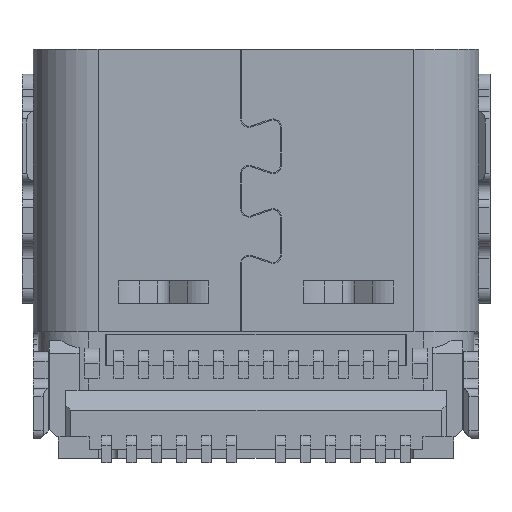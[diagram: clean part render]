
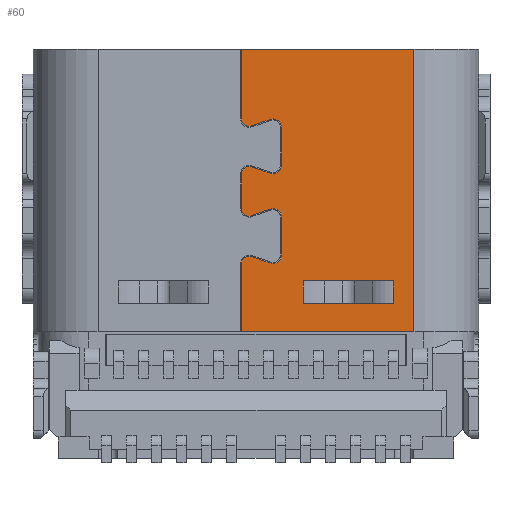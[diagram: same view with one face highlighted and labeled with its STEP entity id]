
A CAD part, front view. The second image highlights one B-rep face of the part: STEP entity #60.
In plain terms, the highlighted planar face has unit normal (0, -1, 0).
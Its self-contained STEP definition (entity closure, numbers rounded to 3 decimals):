
#60=ADVANCED_FACE('',(#732,#733),#734,.T.);
#732=FACE_OUTER_BOUND('',#2061,.T.);
#733=FACE_BOUND('',#2062,.T.);
#734=PLANE('',#2063);
#2061=EDGE_LOOP('',(#3615,#3616,#3617,#3618,#3619,#3620,#3621,#3622,#3623,#3624,#3625,#3626,#3627,#3628,#3629,#3630,#3631,#3632,#3633,#3634));
#2062=EDGE_LOOP('',(#3635,#3636,#3637,#3638));
#2063=AXIS2_PLACEMENT_3D('',#3639,#3640,#3641);
#3615=ORIENTED_EDGE('',*,*,#9364,.T.);
#3616=ORIENTED_EDGE('',*,*,#9365,.T.);
#3617=ORIENTED_EDGE('',*,*,#9366,.T.);
#3618=ORIENTED_EDGE('',*,*,#9367,.T.);
#3619=ORIENTED_EDGE('',*,*,#9368,.T.);
#3620=ORIENTED_EDGE('',*,*,#9369,.T.);
#3621=ORIENTED_EDGE('',*,*,#9370,.T.);
#3622=ORIENTED_EDGE('',*,*,#9371,.T.);
#3623=ORIENTED_EDGE('',*,*,#9372,.T.);
#3624=ORIENTED_EDGE('',*,*,#9373,.F.);
#3625=ORIENTED_EDGE('',*,*,#9374,.F.);
#3626=ORIENTED_EDGE('',*,*,#9360,.F.);
#3627=ORIENTED_EDGE('',*,*,#9358,.F.);
#3628=ORIENTED_EDGE('',*,*,#9375,.T.);
#3629=ORIENTED_EDGE('',*,*,#9376,.T.);
#3630=ORIENTED_EDGE('',*,*,#9377,.T.);
#3631=ORIENTED_EDGE('',*,*,#9378,.T.);
#3632=ORIENTED_EDGE('',*,*,#9379,.T.);
#3633=ORIENTED_EDGE('',*,*,#9380,.T.);
#3634=ORIENTED_EDGE('',*,*,#9381,.T.);
#3635=ORIENTED_EDGE('',*,*,#9382,.F.);
#3636=ORIENTED_EDGE('',*,*,#9383,.T.);
#3637=ORIENTED_EDGE('',*,*,#9384,.F.);
#3638=ORIENTED_EDGE('',*,*,#9385,.T.);
#3639=CARTESIAN_POINT('',(7.647,3.462,3.12));
#3640=DIRECTION('',(0.0,-1.0,0.0));
#3641=DIRECTION('',(0.0,0.0,-1.0));
#9358=EDGE_CURVE('',#11312,#11314,#11315,.T.);
#9360=EDGE_CURVE('',#11314,#11317,#11318,.T.);
#9364=EDGE_CURVE('',#11324,#11325,#11326,.T.);
#9365=EDGE_CURVE('',#11325,#11327,#11328,.T.);
#9366=EDGE_CURVE('',#11327,#11329,#11330,.T.);
#9367=EDGE_CURVE('',#11329,#11331,#11332,.T.);
#9368=EDGE_CURVE('',#11331,#11333,#11334,.T.);
#9369=EDGE_CURVE('',#11333,#11335,#11336,.T.);
#9370=EDGE_CURVE('',#11335,#11337,#11338,.T.);
#9371=EDGE_CURVE('',#11337,#11339,#11340,.T.);
#9372=EDGE_CURVE('',#11339,#11341,#11342,.T.);
#9373=EDGE_CURVE('',#11343,#11341,#11344,.T.);
#9374=EDGE_CURVE('',#11317,#11343,#11345,.T.);
#9375=EDGE_CURVE('',#11312,#11346,#11347,.T.);
#9376=EDGE_CURVE('',#11346,#11348,#11349,.T.);
#9377=EDGE_CURVE('',#11348,#11350,#11351,.T.);
#9378=EDGE_CURVE('',#11350,#11352,#11353,.T.);
#9379=EDGE_CURVE('',#11352,#11354,#11355,.T.);
#9380=EDGE_CURVE('',#11354,#11356,#11357,.T.);
#9381=EDGE_CURVE('',#11356,#11324,#11358,.T.);
#9382=EDGE_CURVE('',#11359,#11360,#11361,.T.);
#9383=EDGE_CURVE('',#11359,#11362,#11363,.T.);
#9384=EDGE_CURVE('',#11364,#11362,#11365,.T.);
#9385=EDGE_CURVE('',#11364,#11360,#11366,.T.);
#11312=VERTEX_POINT('',#14524);
#11314=VERTEX_POINT('',#14527);
#11315=LINE('',#14528,#14529);
#11317=VERTEX_POINT('',#14531);
#11318=LINE('',#14532,#14533);
#11324=VERTEX_POINT('',#14541);
#11325=VERTEX_POINT('',#14542);
#11326=CIRCLE('',#14543,0.15);
#11327=VERTEX_POINT('',#14544);
#11328=LINE('',#14545,#14546);
#11329=VERTEX_POINT('',#14547);
#11330=CIRCLE('',#14548,0.15);
#11331=VERTEX_POINT('',#14549);
#11332=LINE('',#14550,#14551);
#11333=VERTEX_POINT('',#14552);
#11334=CIRCLE('',#14553,0.17);
#11335=VERTEX_POINT('',#14554);
#11336=LINE('',#14555,#14556);
#11337=VERTEX_POINT('',#14557);
#11338=CIRCLE('',#14558,0.17);
#11339=VERTEX_POINT('',#14559);
#11340=LINE('',#14560,#14561);
#11341=VERTEX_POINT('',#14562);
#11342=CIRCLE('',#14563,0.15);
#11343=VERTEX_POINT('',#14564);
#11344=LINE('',#14565,#14566);
#11345=LINE('',#14567,#14568);
#11346=VERTEX_POINT('',#14569);
#11347=LINE('',#14570,#14571);
#11348=VERTEX_POINT('',#14572);
#11349=CIRCLE('',#14573,0.15);
#11350=VERTEX_POINT('',#14574);
#11351=LINE('',#14575,#14576);
#11352=VERTEX_POINT('',#14577);
#11353=CIRCLE('',#14578,0.17);
#11354=VERTEX_POINT('',#14579);
#11355=LINE('',#14580,#14581);
#11356=VERTEX_POINT('',#14582);
#11357=CIRCLE('',#14583,0.17);
#11358=LINE('',#14584,#14585);
#11359=VERTEX_POINT('',#14586);
#11360=VERTEX_POINT('',#14587);
#11361=LINE('',#14588,#14589);
#11362=VERTEX_POINT('',#14590);
#11363=LINE('',#14591,#14592);
#11364=VERTEX_POINT('',#14593);
#11365=LINE('',#14594,#14595);
#11366=LINE('',#14596,#14597);
#14524=CARTESIAN_POINT('',(5.237,3.462,4.02));
#14527=CARTESIAN_POINT('',(8.697,3.462,4.02));
#14528=CARTESIAN_POINT('',(5.237,3.462,4.02));
#14529=VECTOR('',#19153,3.46);
#14531=CARTESIAN_POINT('',(8.697,3.462,-1.65));
#14532=CARTESIAN_POINT('',(8.697,3.462,4.02));
#14533=VECTOR('',#19157,5.67);
#14541=CARTESIAN_POINT('',(5.437,3.462,1.661));
#14542=CARTESIAN_POINT('',(5.237,3.462,1.52));
#14543=AXIS2_PLACEMENT_3D('',#19163,#19164,#19165);
#14544=CARTESIAN_POINT('',(5.237,3.462,0.82));
#14545=CARTESIAN_POINT('',(5.237,3.462,1.52));
#14546=VECTOR('',#19166,0.7);
#14547=CARTESIAN_POINT('',(5.437,3.462,0.679));
#14548=AXIS2_PLACEMENT_3D('',#19167,#19168,#19169);
#14549=CARTESIAN_POINT('',(5.811,3.462,0.81));
#14550=CARTESIAN_POINT('',(5.437,3.462,0.679));
#14551=VECTOR('',#19170,0.396);
#14552=CARTESIAN_POINT('',(6.037,3.462,0.65));
#14553=AXIS2_PLACEMENT_3D('',#19171,#19172,#19173);
#14554=CARTESIAN_POINT('',(6.037,3.462,-0.11));
#14555=CARTESIAN_POINT('',(6.037,3.462,0.65));
#14556=VECTOR('',#19174,0.76);
#14557=CARTESIAN_POINT('',(5.811,3.462,-0.27));
#14558=AXIS2_PLACEMENT_3D('',#19175,#19176,#19177);
#14559=CARTESIAN_POINT('',(5.437,3.462,-0.139));
#14560=CARTESIAN_POINT('',(5.811,3.462,-0.27));
#14561=VECTOR('',#19178,0.396);
#14562=CARTESIAN_POINT('',(5.237,3.462,-0.28));
#14563=AXIS2_PLACEMENT_3D('',#19179,#19180,#19181);
#14564=CARTESIAN_POINT('',(5.237,3.462,-1.65));
#14565=CARTESIAN_POINT('',(5.237,3.462,-1.65));
#14566=VECTOR('',#19182,1.37);
#14567=CARTESIAN_POINT('',(8.697,3.462,-1.65));
#14568=VECTOR('',#19183,3.46);
#14569=CARTESIAN_POINT('',(5.237,3.462,2.62));
#14570=CARTESIAN_POINT('',(5.237,3.462,4.02));
#14571=VECTOR('',#19184,1.4);
#14572=CARTESIAN_POINT('',(5.437,3.462,2.479));
#14573=AXIS2_PLACEMENT_3D('',#19185,#19186,#19187);
#14574=CARTESIAN_POINT('',(5.811,3.462,2.61));
#14575=CARTESIAN_POINT('',(5.437,3.462,2.479));
#14576=VECTOR('',#19188,0.396);
#14577=CARTESIAN_POINT('',(6.037,3.462,2.45));
#14578=AXIS2_PLACEMENT_3D('',#19189,#19190,#19191);
#14579=CARTESIAN_POINT('',(6.037,3.462,1.69));
#14580=CARTESIAN_POINT('',(6.037,3.462,2.45));
#14581=VECTOR('',#19192,0.76);
#14582=CARTESIAN_POINT('',(5.811,3.462,1.53));
#14583=AXIS2_PLACEMENT_3D('',#19193,#19194,#19195);
#14584=CARTESIAN_POINT('',(5.811,3.462,1.53));
#14585=VECTOR('',#19196,0.396);
#14586=CARTESIAN_POINT('',(6.477,3.462,-0.629));
#14587=CARTESIAN_POINT('',(6.477,3.462,-1.081));
#14588=CARTESIAN_POINT('',(6.477,3.462,-0.629));
#14589=VECTOR('',#19197,0.452);
#14590=CARTESIAN_POINT('',(8.277,3.462,-0.629));
#14591=CARTESIAN_POINT('',(6.477,3.462,-0.629));
#14592=VECTOR('',#19198,1.8);
#14593=CARTESIAN_POINT('',(8.277,3.462,-1.081));
#14594=CARTESIAN_POINT('',(8.277,3.462,-1.081));
#14595=VECTOR('',#19199,0.452);
#14596=CARTESIAN_POINT('',(8.277,3.462,-1.081));
#14597=VECTOR('',#19200,1.8);
#19153=DIRECTION('',(1.0,0.0,0.0));
#19157=DIRECTION('',(0.0,0.0,-1.0));
#19163=CARTESIAN_POINT('',(5.387,3.462,1.52));
#19164=DIRECTION('',(0.0,-1.0,0.0));
#19165=DIRECTION('',(0.333,0.0,0.943));
#19166=DIRECTION('',(0.0,0.0,-1.0));
#19167=CARTESIAN_POINT('',(5.387,3.462,0.82));
#19168=DIRECTION('',(0.0,-1.0,-0.0));
#19169=DIRECTION('',(-1.0,0.0,0.));
#19170=DIRECTION('',(0.943,0.0,0.333));
#19171=CARTESIAN_POINT('',(5.867,3.462,0.65));
#19172=DIRECTION('',(0.0,1.0,0.0));
#19173=DIRECTION('',(-0.333,0.0,0.943));
#19174=DIRECTION('',(0.0,0.0,-1.0));
#19175=CARTESIAN_POINT('',(5.867,3.462,-0.11));
#19176=DIRECTION('',(-0.0,1.0,0.0));
#19177=DIRECTION('',(1.0,0.0,0.0));
#19178=DIRECTION('',(-0.943,0.0,0.333));
#19179=CARTESIAN_POINT('',(5.387,3.462,-0.28));
#19180=DIRECTION('',(0.0,-1.0,0.0));
#19181=DIRECTION('',(0.333,0.0,0.943));
#19182=DIRECTION('',(0.0,0.0,1.0));
#19183=DIRECTION('',(-1.0,0.0,0.0));
#19184=DIRECTION('',(0.0,0.0,-1.0));
#19185=CARTESIAN_POINT('',(5.387,3.462,2.62));
#19186=DIRECTION('',(0.0,-1.0,-0.0));
#19187=DIRECTION('',(-1.0,0.0,0.));
#19188=DIRECTION('',(0.943,0.0,0.333));
#19189=CARTESIAN_POINT('',(5.867,3.462,2.45));
#19190=DIRECTION('',(0.0,1.0,0.0));
#19191=DIRECTION('',(-0.333,0.0,0.943));
#19192=DIRECTION('',(0.0,0.0,-1.0));
#19193=CARTESIAN_POINT('',(5.867,3.462,1.69));
#19194=DIRECTION('',(-0.0,1.0,0.0));
#19195=DIRECTION('',(1.0,0.0,0.0));
#19196=DIRECTION('',(-0.943,0.0,0.333));
#19197=DIRECTION('',(0.0,0.0,-1.0));
#19198=DIRECTION('',(1.0,0.0,0.0));
#19199=DIRECTION('',(0.0,0.0,1.0));
#19200=DIRECTION('',(-1.0,0.0,0.0));
